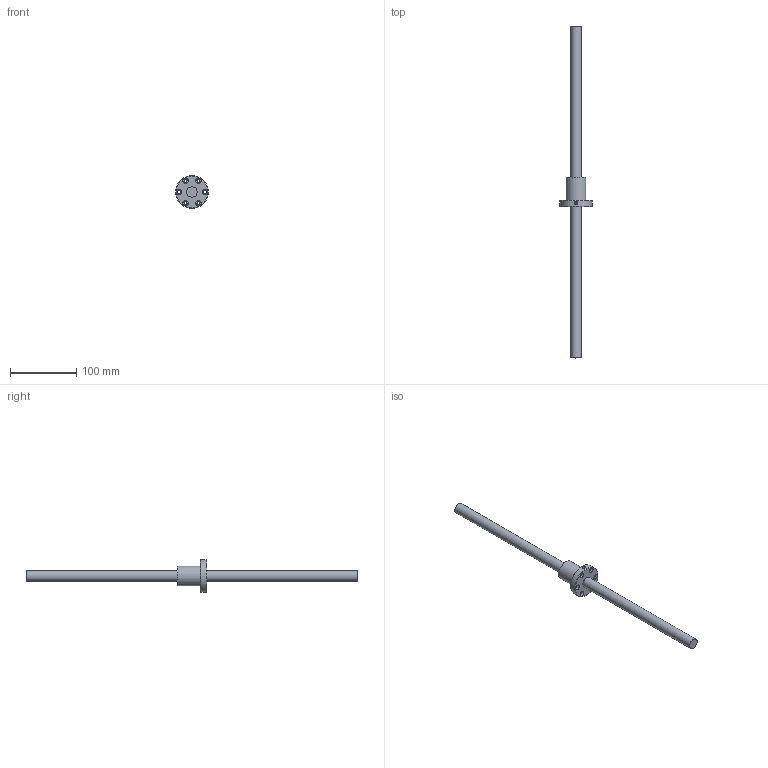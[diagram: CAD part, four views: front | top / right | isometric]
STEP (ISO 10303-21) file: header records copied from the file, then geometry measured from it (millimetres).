
FILE_DESCRIPTION (( 'STEP AP203' ), '1' );
FILE_NAME ('SFNI1605.STEP', '2023-07-10T05:55:49', ( '' ), ( '' ), 'SwSTEP 2.0', 'SolidWorks 2022', '' );
FILE_SCHEMA (( 'CONFIG_CONTROL_DESIGN' ));
Length unit declared in the file: millimetre
Products named in the file (1): SFNI1605
Bounding box: 49 x 500 x 49 mm (x, y, z)
Volume: 132917.5 mm3; surface area: 37041.2 mm2
Topology: 2 solids, 2 shells, 33 faces, 66 edges, 44 vertices
Faces by surface type: cylinder 18, plane 12, torus 3
Full cylindrical faces by diameter (mm): 4 x1, 4.5 x6, 5 x1, 8 x6, 16 x2, 30 x1, 49 x1
Entity records: 941 total; most frequent: CARTESIAN_POINT 228, DIRECTION 142, EDGE_LOOP 78, ORIENTED_EDGE 78, AXIS2_PLACEMENT_3D 71, FACE_OUTER_BOUND 54, VERTEX_POINT 39, EDGE_CURVE 39
